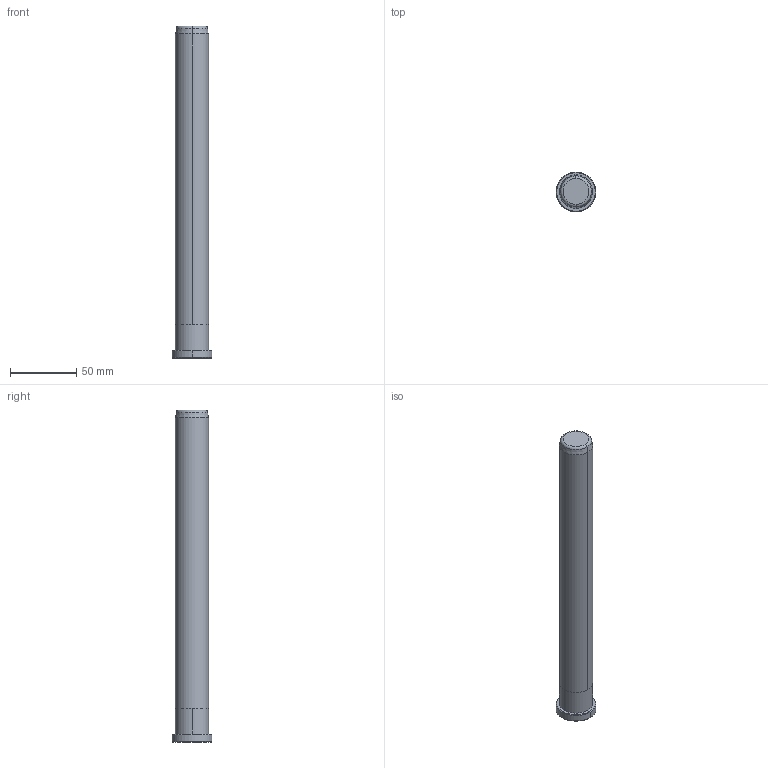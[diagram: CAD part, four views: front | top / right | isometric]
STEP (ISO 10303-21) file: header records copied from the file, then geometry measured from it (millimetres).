
FILE_DESCRIPTION((''),'2;1');
FILE_NAME('B80825250','2018-01-06T',('MANU'),(''),'PRO/ENGINEER BY PARAMETRIC TECHNOLOGY CORPORATION, 2012130','PRO/ENGINEER BY PARAMETRIC TECHNOLOGY CORPORATION, 2012130','');
FILE_SCHEMA(('CONFIG_CONTROL_DESIGN'));
Length unit declared in the file: millimetre
Products named in the file (1): B80825250
Bounding box: 30 x 30 x 250 mm (x, y, z)
Volume: 123724.3 mm3; surface area: 20953.8 mm2
Topology: 1 solids, 1 shells, 18 faces, 34 edges, 20 vertices
Faces by surface type: cone 6, cylinder 6, plane 4, torus 2
Entity records: 494 total; most frequent: DIRECTION 92, CARTESIAN_POINT 72, ORIENTED_EDGE 68, AXIS2_PLACEMENT_3D 40, EDGE_CURVE 34, CIRCLE 22, VERTEX_POINT 20, EDGE_LOOP 20
